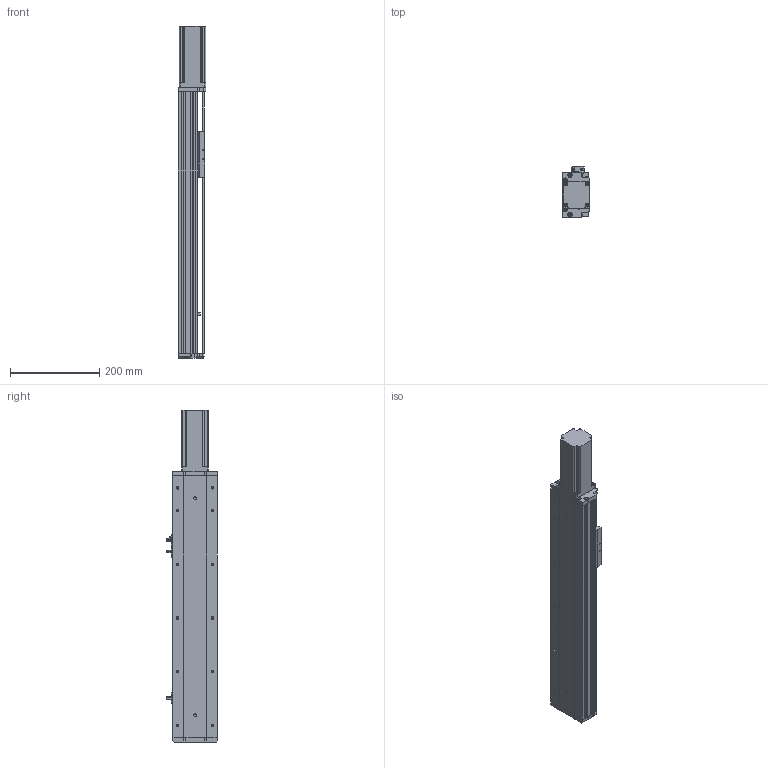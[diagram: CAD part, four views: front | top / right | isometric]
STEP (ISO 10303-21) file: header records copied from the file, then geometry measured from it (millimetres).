
FILE_DESCRIPTION (( 'STEP AP214' ), '1' );
FILE_NAME ('KSD100S-S350-MN-CM.STEP', '2019-08-30T06:56:14', ( '微软用户' ), ( '微软中国' ), 'SwSTEP 2.0', 'SolidWorks 2014', '' );
FILE_SCHEMA (( 'AUTOMOTIVE_DESIGN' ));
Length unit declared in the file: millimetre
Products named in the file (9): 100宽马达安装板不带电机座; 100宽滚珠螺姆安装板半封闭; 100遵傷啣; 100宽底板半封闭350行程丝杆不带电机座; KSD100S-S350-MN-CM; 台达ECMA－C20604AS伺服电机; 覜茼え100遵圉猾敕; U倰嫖萇EEㄜSX672; 100宽防尘板丝杆350行程不带电机座
Assembly tree (10 placements, depth 2):
  KSD100S-S350-MN-CM
    100宽底板半封闭350行程丝杆不带电机座
    100遵傷啣
    100宽滚珠螺姆安装板半封闭
    100宽马达安装板不带电机座
    100宽防尘板丝杆350行程不带电机座
    U倰嫖萇EEㄜSX672  x3
    覜茼え100遵圉猾敕
    台达ECMA－C20604AS伺服电机
Bounding box: 62 x 113.7 x 742 mm (x, y, z)
Volume: 1696835.3 mm3; surface area: 491935.9 mm2
Topology: 11 solids, 11 shells, 1034 faces, 2920 edges, 1857 vertices
Faces by surface type: cylinder 479, plane 452, cone 103
Entity records: 35042 total; most frequent: CARTESIAN_POINT 6792, DIRECTION 4667, ORIENTED_EDGE 4540, EDGE_CURVE 2270, AXIS2_PLACEMENT_3D 1672, VERTEX_POINT 1481, VECTOR 1323, LINE 1323
